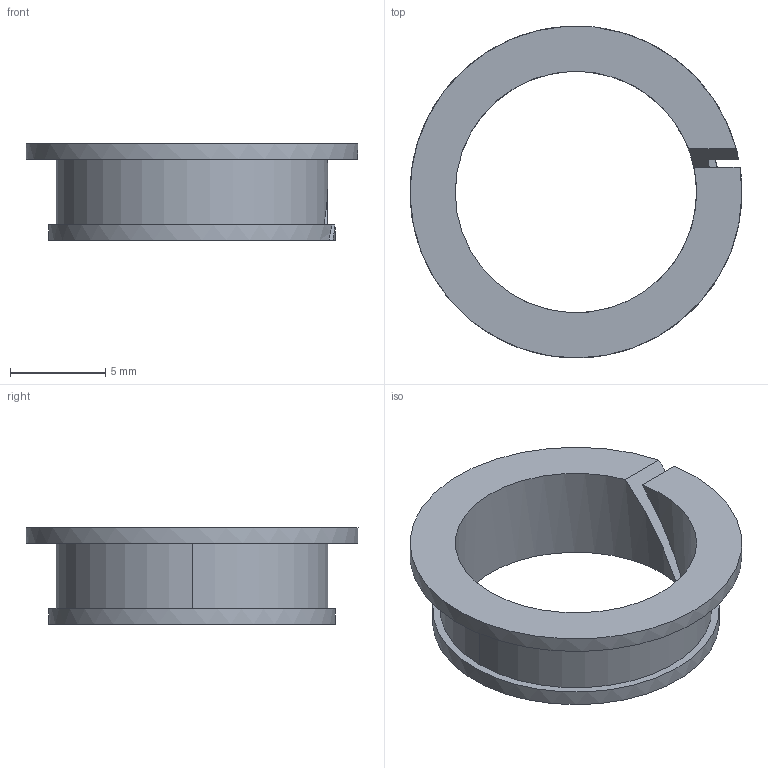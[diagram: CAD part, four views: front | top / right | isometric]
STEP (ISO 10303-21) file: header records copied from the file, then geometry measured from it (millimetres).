
FILE_DESCRIPTION(/* description */ (''),/* implementation_level */ '2;1');
FILE_NAME(/* name */ 'Iglide clip bearing .step',/* time_stamp */ '2022-12-29T15:55:23-08:00',/* author */ (''),/* organization */ (''),/* preprocessor_version */ 'ST-DEVELOPER v19.2',/* originating_system */ 'Autodesk Translation Framework v11.17.0.187',/* authorisation */ '');
FILE_SCHEMA (('AUTOMOTIVE_DESIGN { 1 0 10303 214 3 1 1 }'));
Length unit declared in the file: millimetre
Products named in the file (1): Iglide clip bearing
Bounding box: 17.46 x 17.46 x 5.08 mm (x, y, z)
Volume: 244.6 mm3; surface area: 701.6 mm2
Topology: 1 solids, 1 shells, 12 faces, 30 edges, 20 vertices
Faces by surface type: cylinder 6, plane 6
Entity records: 414 total; most frequent: DIRECTION 76, CARTESIAN_POINT 63, ORIENTED_EDGE 60, AXIS2_PLACEMENT_3D 33, EDGE_CURVE 30, VERTEX_POINT 20, FACE_OUTER_BOUND 12, EDGE_LOOP 12
